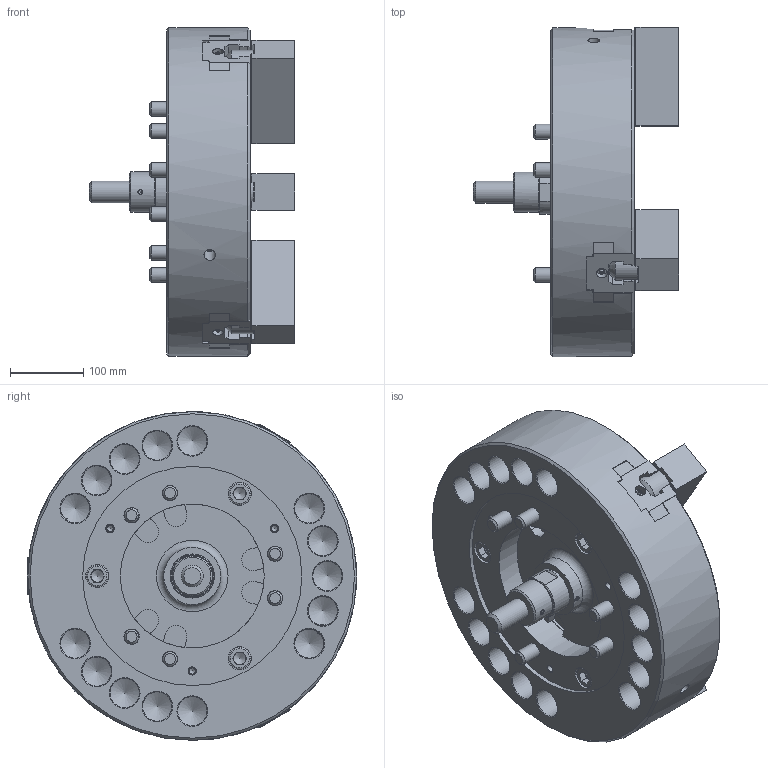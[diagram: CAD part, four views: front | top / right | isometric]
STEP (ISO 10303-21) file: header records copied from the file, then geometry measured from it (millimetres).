
FILE_DESCRIPTION (( 'STEP AP214' ), '1' );
FILE_NAME ('N-18_UC.STEP', '2020-01-24T07:09:15', ( '' ), ( '' ), 'SwSTEP 2.0', 'SolidWorks 2017', '' );
FILE_SCHEMA (( 'AUTOMOTIVE_DESIGN' ));
Length unit declared in the file: millimetre
Products named in the file (21): 61P418536-0_T僫僢僩b_g; B傾僫僣僉 M20亊550_~55; Part3^61P241353-4_僋儈僞僥_^_e_棉太倌I佱UA; 61P321128-2_ソフトジョー_W_‡_[; B傾僫僣僉 M20亊550_~55_棉太倌TI佱UA; Part3^61P241353-4_クミタテ_^_e; N-18_UC; 61P418536-0_T僫僢僩b_g_棉太倌佱UA; 61P321128-2_ソフトジョー_W_‡_[_ﾃﾞﾌｫﾙﾄ_ATI≪UA
Assembly tree (16 placements, depth 2):
  61P418536-0_T僫僢僩b_g
  B傾僫僣僉 M20亊550_~55
  61P418536-0_T僫僢僩b_g
  B傾僫僣僉 M20亊550_~55
  61P321128-2_ソフトジョー_W_‡_[
Bounding box: 281.2 x 450.75 x 450 mm (x, y, z)
Volume: 16548331.6 mm3; surface area: 1070166.3 mm2
Topology: 16 solids, 37 shells, 4192 faces, 11986 edges, 7916 vertices
Faces by surface type: plane 3765, cylinder 272, cone 130, torus 19, sphere 6
Full cylindrical faces by diameter (mm): 1.9 x3, 3.3 x6, 4.5 x3, 6 x4, 6.6 x3, 6.8 x1, 8 x3, 8.5 x3, 9 x3, 10 x3, 10.5 x3, 11 x3, 14 x2, 15 x3, 16 x2, 20 x18, 21 x12, 30 x16, 32 x9, 40 x15, 55 x1, 60 x2, 60.5 x2, 78 x1, 197 x1, 300 x1, 450 x1
Entity records: 92353 total; most frequent: CARTESIAN_POINT 17286, ORIENTED_EDGE 15938, DIRECTION 14431, EDGE_CURVE 7969, VECTOR 7083, LINE 7083, VERTEX_POINT 5347, AXIS2_PLACEMENT_3D 3674
